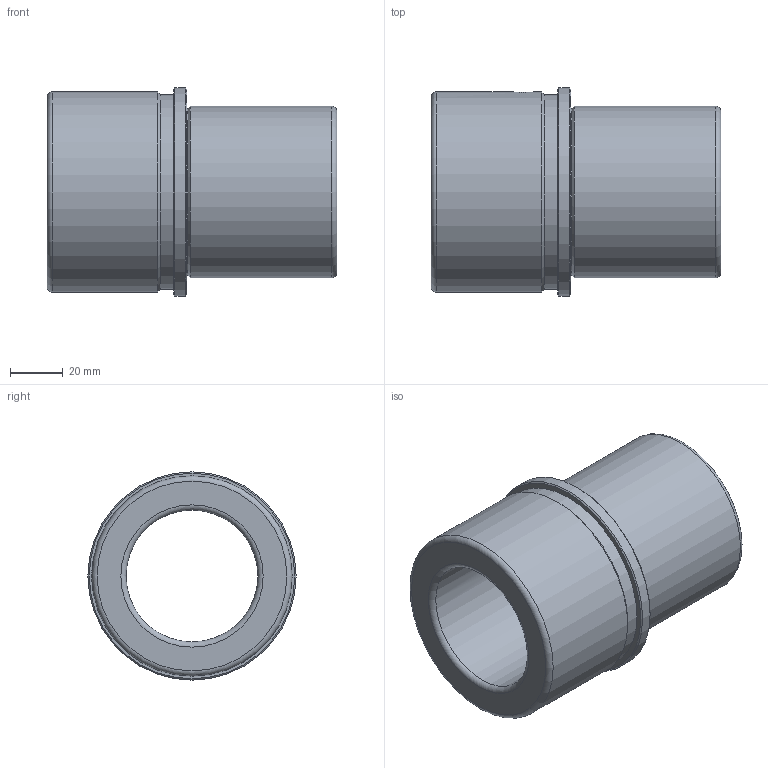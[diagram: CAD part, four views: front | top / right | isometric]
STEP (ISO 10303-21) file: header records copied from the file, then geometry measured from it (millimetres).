
FILE_DESCRIPTION( ( 'STEP AP214' ), '1' );
FILE_NAME( 'p:/temp/worker_27/temp/exporttempdir_4504_187_AqjZJ/format_2/WZ - 4051 50 x 110.stp', '2020-12-04T19:42:53', ( 'License CC BY-ND 4.0' ), ( 'CADENAS' ), ' ', 'PARTsolutions', ' ' );
FILE_SCHEMA( ( 'AUTOMOTIVE_DESIGN { 1 0 10303 214 1 1 1 1 }' ) );
Length unit declared in the file: millimetre
Products named in the file (1): _WZ - 4051 50 x 110
Bounding box: 110 x 79 x 79 mm (x, y, z)
Volume: 212116.8 mm3; surface area: 47795.6 mm2
Topology: 1 solids, 1 shells, 21 faces, 38 edges, 22 vertices
Faces by surface type: cylinder 7, cone 5, plane 5, torus 4
Full cylindrical faces by diameter (mm): 8.376 x1, 50 x1, 63 x1, 65 x1, 74 x1, 76 x1, 79 x1
Entity records: 750 total; most frequent: CARTESIAN_POINT 196, DIRECTION 84, EDGE_LOOP 44, ORIENTED_EDGE 44, AXIS2_PLACEMENT_3D 42, FACE_OUTER_BOUND 32, EDGE_CURVE 22, VERTEX_POINT 22
